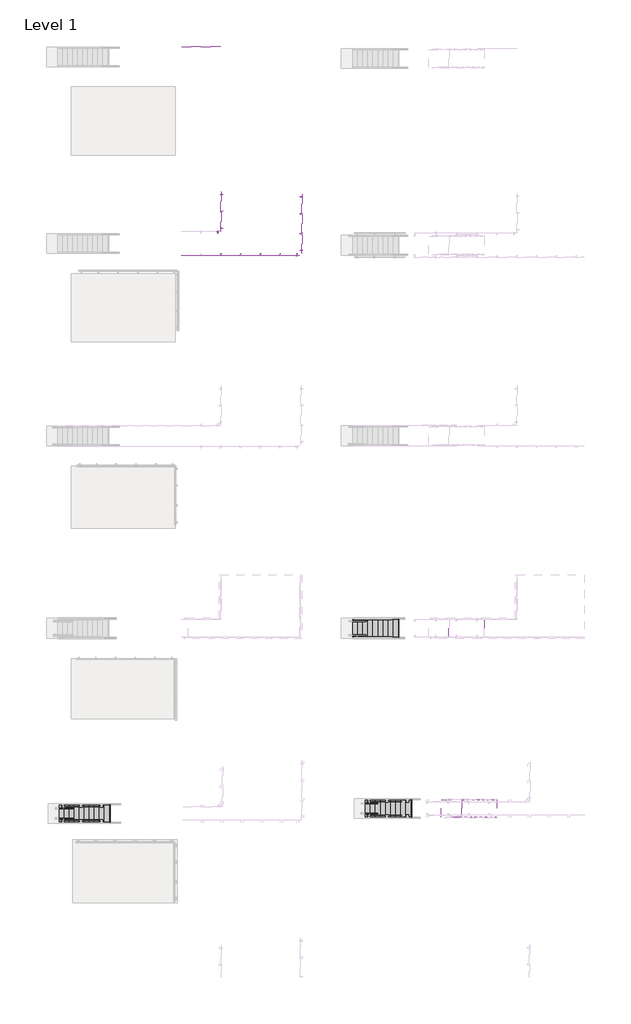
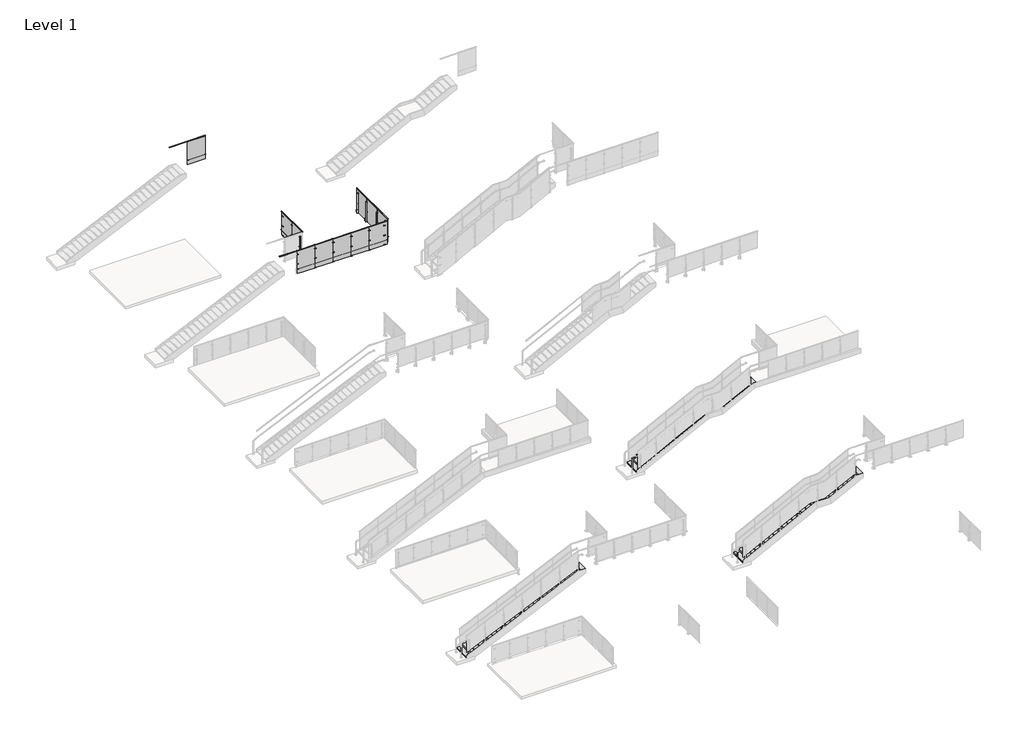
# One storey, part 21 of 37: 6 proxies, 5 stair flights, 4 railings, 1 slab.
"""IFC4 building model written with IfcOpenShell, lengths in millimetres."""

from ifc_helpers import new_model, si_unit, point, frame, frame_2d, origin, place, context, project, spatial, polyline, circle_curve, trimmed, segment, composite_curve, outline, extrude, faceted_brep, transform, mapped, element, save
from components import baluster_end_post_viva_solo_top_mount_5ac118a2, baluster_end_post_viva_solo_top_mount_22cecde8, non_monolithic_landing_24d4a4f4, stair_flight_273abd03, stair_flight_978e4ef8, stair_flight_d18736ff, stair_flight_5856ef12, stair_flight_fc7d2e35

model = new_model("IFC4")

# Units and contexts
model_context = context("Model", 3, world=origin())
ifc_project = project(units=[si_unit("LENGTHUNIT", "METRE", prefix="MILLI")], contexts=[model_context])

# Site, building, storey
site = spatial("IfcSite", under=ifc_project)
building = spatial("IfcBuilding", under=site)
storey = spatial("IfcBuildingStorey", under=building, Name="Level 1", Elevation=0.0)

# Proxies
placement = place(None, origin())
baluster_end_post_viva_solo_top_mount_shape = baluster_end_post_viva_solo_top_mount_5ac118a2(model_context)
element("IfcBuildingElementProxy", 1, Name="Baluster-End-Post-VIVA-SOLO-Top Mount : ANCHORED TO CONCRETE_FASCIA A1 MOUNT FOLD_STRAIGHT", ObjectType="Baluster-End-Post-VIVA-SOLO-Top Mount : ANCHORED TO CONCRETE_FASCIA A1 MOUNT FOLD_STRAIGHT", at=placement, inside=storey, context=model_context, shape_type="MappedRepresentation", body=[
    mapped(baluster_end_post_viva_solo_top_mount_shape, transform((-1359.864819, 32538.5744132, 3047.492), x_axis=(-1.0, 0.0, 0.0), y_axis=(0.0, -1.0, 0.0), z_axis=(0.0, 0.0, 1.0))),
])
element("IfcBuildingElementProxy", 2, Name="Baluster-End-Post-VIVA-SOLO-Top Mount : ANCHORED TO CONCRETE_FASCIA A1 MOUNT FOLD_STRAIGHT", ObjectType="Baluster-End-Post-VIVA-SOLO-Top Mount : ANCHORED TO CONCRETE_FASCIA A1 MOUNT FOLD_STRAIGHT", at=placement, inside=storey, context=model_context, shape_type="MappedRepresentation", body=[
    mapped(baluster_end_post_viva_solo_top_mount_shape, transform((-5472.6508345, 33855.1380879, 3047.492), x_axis=(0.0, 1.0, 0.0), y_axis=(-1.0, 0.0, 0.0), z_axis=(0.0, 0.0, 1.0))),
])
element("IfcBuildingElementProxy", 3, Name="Baluster-End-Post-VIVA-SOLO-Top Mount : ANCHORED TO CONCRETE_FASCIA A1 MOUNT FOLD_STRAIGHT", ObjectType="Baluster-End-Post-VIVA-SOLO-Top Mount : ANCHORED TO CONCRETE_FASCIA A1 MOUNT FOLD_STRAIGHT", at=placement, inside=storey, context=model_context, shape_type="MappedRepresentation", body=[
    mapped(baluster_end_post_viva_solo_top_mount_shape, transform((-1191.856519, 35759.2987834, 3047.492), x_axis=(0.0, -1.0, 0.0), y_axis=(1.0, 0.0, 0.0), z_axis=(0.0, 0.0, 1.0))),
])
baluster_end_post_viva_solo_top_mount_2_shape = baluster_end_post_viva_solo_top_mount_22cecde8(model_context)
element("IfcBuildingElementProxy", 4, Name="Baluster-End-Post-VIVA-SOLO-Top Mount : ANCHORED TO CONCRETE_FASCIA A1 MOUNT FOLD_STRAIGHT", ObjectType="Baluster-End-Post-VIVA-SOLO-Top Mount : ANCHORED TO CONCRETE_FASCIA A1 MOUNT FOLD_STRAIGHT", at=placement, inside=storey, context=model_context, shape_type="MappedRepresentation", body=[
    mapped(baluster_end_post_viva_solo_top_mount_2_shape, transform((-5423.864819, 33900.0689752, 3047.492), x_axis=(1.0, 0.0, 0.0), y_axis=(0.0, 1.0, 0.0), z_axis=(0.0, 0.0, 1.0))),
])
element("IfcBuildingElementProxy", 5, Name="Baluster-End-Post-VIVA-SOLO-Top Mount : ANCHORED TO CONCRETE_FASCIA A1 MOUNT FOLD_STRAIGHT", ObjectType="Baluster-End-Post-VIVA-SOLO-Top Mount : ANCHORED TO CONCRETE_FASCIA A1 MOUNT FOLD_STRAIGHT", at=placement, inside=storey, context=model_context, shape_type="MappedRepresentation", body=[
    mapped(baluster_end_post_viva_solo_top_mount_2_shape, transform((-5472.6508345, 35887.1380879, 3047.492), x_axis=(0.0, 1.0, 0.0), y_axis=(-1.0, 0.0, 0.0), z_axis=(0.0, 0.0, 1.0))),
])
element("IfcBuildingElementProxy", 6, Name="Baluster-End-Post-VIVA-SOLO-Top Mount : ANCHORED TO CONCRETE_FASCIA A1 MOUNT FOLD_STRAIGHT", ObjectType="Baluster-End-Post-VIVA-SOLO-Top Mount : ANCHORED TO CONCRETE_FASCIA A1 MOUNT FOLD_STRAIGHT", at=placement, inside=storey, context=model_context, shape_type="MappedRepresentation", body=[
    mapped(baluster_end_post_viva_solo_top_mount_2_shape, transform((-1191.856519, 32711.2987834, 3047.492), x_axis=(0.0, -1.0, 0.0), y_axis=(1.0, 0.0, 0.0), z_axis=(0.0, 0.0, 1.0))),
])

# Railings
element("IfcRailing", 7, ObjectType="VIVA-SOLO-Glass-Fascia Mount-Straight-A1", at=placement, inside=storey, context=model_context, shape_type="SolidModel", body=[
    extrude(outline(composite_curve([segment(trimmed(circle_curve(frame_2d((32538.5744132, 3047.746)), 0.254), [point((32538.3204132, 3047.746))], [point((32538.8284132, 3047.746))], False, "CARTESIAN"), True, "CONTINUOUS"), segment(trimmed(circle_curve(frame_2d((32538.5744132, 3047.746)), 0.254), [point((32538.8284132, 3047.746))], [point((32538.3204132, 3047.746))], False, "CARTESIAN"), True, "CONTINUOUS")], self_intersect=False)), frame((-6439.864819, 0.0, 0.0), z_axis=(1.0, 0.0, 0.0), x_axis=(0.0, 1.0, 0.0)), (0.0, 0.0, 1.0), 5080.0),
    extrude(outline(composite_curve([segment(trimmed(circle_curve(frame_2d((32538.5744132, 3047.746)), 0.254), [point((32538.3204132, 3047.746))], [point((32538.8284132, 3047.746))], False, "CARTESIAN"), True, "CONTINUOUS"), segment(trimmed(circle_curve(frame_2d((32538.5744132, 3047.746)), 0.254), [point((32538.8284132, 3047.746))], [point((32538.3204132, 3047.746))], False, "CARTESIAN"), True, "CONTINUOUS")], self_intersect=False)), frame((-6439.864819, 0.0, 0.0), z_axis=(1.0, 0.0, 0.0), x_axis=(0.0, 1.0, 0.0)), (0.0, 0.0, 1.0), 5080.0),
    faceted_brep([(-1359.864819, 32584.2944132, 4127.5), (-1359.864819, 32584.2944132, 4102.1), (-1359.864819, 32589.0569132, 4102.1), (-1359.864819, 32589.0569132, 4122.7375), (-1359.864819, 32601.7569132, 4122.7375), (-1359.864819, 32601.7569132, 4102.1), (-1359.864819, 32606.5194132, 4102.1), (-1359.864819, 32606.5194132, 4127.5), (-6439.864819, 32606.5194132, 4127.5), (-6439.864819, 32584.2944132, 4127.5), (-6439.864819, 32606.5194132, 4102.1), (-6439.864819, 32601.7569132, 4102.1), (-6439.864819, 32601.7569132, 4122.7375), (-6439.864819, 32589.0569132, 4122.7375), (-6439.864819, 32589.0569132, 4102.1), (-6439.864819, 32584.2944132, 4102.1), (-7437.8451365, 32584.2944132, 4127.5), (-7437.8451365, 32606.5194132, 4127.5), (-7437.8451365, 32606.5194132, 4102.1), (-7437.8451365, 32601.7569132, 4102.1), (-7437.8451365, 32601.7569132, 4122.7375), (-7437.8451365, 32589.0569132, 4122.7375), (-7437.8451365, 32589.0569132, 4102.1), (-7437.8451365, 32584.2944132, 4102.1)], [[[0, 1, 2, 3, 4, 5, 6, 7]], [[8, 9, 0, 7]], [[10, 8, 7, 6]], [[11, 10, 6, 5]], [[12, 11, 5, 4]], [[13, 12, 4, 3]], [[14, 13, 3, 2]], [[15, 14, 2, 1]], [[9, 15, 1, 0]], [[16, 17, 18, 19, 20, 21, 22, 23]], [[17, 16, 9, 8]], [[18, 17, 8, 10]], [[19, 18, 10, 11]], [[20, 19, 11, 12]], [[21, 20, 12, 13]], [[22, 21, 13, 14]], [[23, 22, 14, 15]], [[16, 23, 15, 9]]]),
    extrude(outline(polyline([(-2362.7817724, 32589.1204132), (-2362.7817724, 32601.8204132), (-1372.1817724, 32601.8204132), (-1372.1817724, 32589.1204132), (-2362.7817724, 32589.1204132)])), frame((0.0, 0.0, 2743.2), z_axis=(0.0, 0.0, 1.0), x_axis=(1.0, 0.0, 0.0)), (0.0, 0.0, 1.0), 1379.474),
    extrude(outline(polyline([(-2356.021069, 32611.3454132), (-2369.514819, 32611.3454132), (-2369.514819, 32711.3579132), (-2356.021069, 32711.3579132), (-2356.021069, 32611.3454132)])), frame((0.0, 0.0, 2832.1), z_axis=(0.0, 0.0, 1.0), x_axis=(1.0, 0.0, 0.0)), (0.0, 0.0, 1.0), 127.0),
    extrude(outline(polyline([(-2369.514819, 32611.3454132), (-2382.214819, 32611.3454132), (-2382.214819, 32674.8454132), (-2369.514819, 32674.8454132), (-2369.514819, 32611.3454132)])), frame((0.0, 0.0, 2737.1764046), z_axis=(0.0, 0.0, 1.0), x_axis=(1.0, 0.0, 0.0)), (0.0, 0.0, 1.0), 1204.9740667),
    extrude(outline(polyline([(-2420.314819, 32601.8204132), (-2420.314819, 32611.3454132), (-2331.414819, 32611.3454132), (-2331.414819, 32601.8204132), (-2420.314819, 32601.8204132)])), frame((0.0, 0.0, 2737.1449689), z_axis=(0.0, 0.0, 1.0), x_axis=(1.0, 0.0, 0.0)), (0.0, 0.0, 1.0), 31.75),
    extrude(outline(polyline([(-2420.314819, 32579.5954132), (-2420.314819, 32589.1204132), (-2331.414819, 32589.1204132), (-2331.414819, 32579.5954132), (-2420.314819, 32579.5954132)])), frame((0.0, 0.0, 2737.1449689), z_axis=(0.0, 0.0, 1.0), x_axis=(1.0, 0.0, 0.0)), (0.0, 0.0, 1.0), 31.75),
    extrude(outline(polyline([(-2420.314819, 32601.8204132), (-2420.314819, 32611.3454132), (-2331.414819, 32611.3454132), (-2331.414819, 32601.8204132), (-2420.314819, 32601.8204132)])), frame((0.0, 0.0, 3299.9910694), z_axis=(0.0, 0.0, 1.0), x_axis=(1.0, 0.0, 0.0)), (0.0, 0.0, 1.0), 31.75),
    extrude(outline(polyline([(-2420.314819, 32601.8204132), (-2420.314819, 32611.3454132), (-2331.414819, 32611.3454132), (-2331.414819, 32601.8204132), (-2420.314819, 32601.8204132)])), frame((0.0, 0.0, 3886.2992187), z_axis=(0.0, 0.0, 1.0), x_axis=(1.0, 0.0, 0.0)), (0.0, 0.0, 1.0), 31.75),
    extrude(outline(polyline([(-2420.314819, 32579.5954132), (-2420.314819, 32589.1204132), (-2331.414819, 32589.1204132), (-2331.414819, 32579.5954132), (-2420.314819, 32579.5954132)])), frame((0.0, 0.0, 3299.9910694), z_axis=(0.0, 0.0, 1.0), x_axis=(1.0, 0.0, 0.0)), (0.0, 0.0, 1.0), 31.75),
    extrude(outline(polyline([(-2420.314819, 32579.5954132), (-2420.314819, 32589.1204132), (-2331.414819, 32589.1204132), (-2331.414819, 32579.5954132), (-2420.314819, 32579.5954132)])), frame((0.0, 0.0, 3886.2992187), z_axis=(0.0, 0.0, 1.0), x_axis=(1.0, 0.0, 0.0)), (0.0, 0.0, 1.0), 31.75),
    extrude(outline(composite_curve([segment(trimmed(circle_curve(frame_2d((2753.4170197, -2375.8737801)), 6.35), [point((2753.4170197, -2369.5237801))], [point((2753.4170197, -2382.2237801))], False, "CARTESIAN"), True, "CONTINUOUS"), segment(trimmed(circle_curve(frame_2d((2753.4170197, -2375.8737801)), 6.35), [point((2753.4170197, -2382.2237801))], [point((2753.4170197, -2369.5237801))], False, "CARTESIAN"), True, "CONTINUOUS")], self_intersect=False)), frame((0.0, 32589.1204132, 0.0), z_axis=(0.0, 1.0, 0.0), x_axis=(0.0, 0.0, 1.0)), (0.0, 0.0, 1.0), 12.7),
    extrude(outline(composite_curve([segment(trimmed(circle_curve(frame_2d((3315.8660694, -2375.864819)), 6.35), [point((3315.8660694, -2369.514819))], [point((3315.8660694, -2382.214819))], False, "CARTESIAN"), True, "CONTINUOUS"), segment(trimmed(circle_curve(frame_2d((3315.8660694, -2375.864819)), 6.35), [point((3315.8660694, -2382.214819))], [point((3315.8660694, -2369.514819))], False, "CARTESIAN"), True, "CONTINUOUS")], self_intersect=False)), frame((0.0, 32589.1204132, 0.0), z_axis=(0.0, 1.0, 0.0), x_axis=(0.0, 0.0, 1.0)), (0.0, 0.0, 1.0), 12.7),
    extrude(outline(composite_curve([segment(trimmed(circle_curve(frame_2d((3902.1742187, -2375.864819)), 6.35), [point((3902.1742187, -2369.514819))], [point((3902.1742187, -2382.214819))], False, "CARTESIAN"), True, "CONTINUOUS"), segment(trimmed(circle_curve(frame_2d((3902.1742187, -2375.864819)), 6.35), [point((3902.1742187, -2382.214819))], [point((3902.1742187, -2369.514819))], False, "CARTESIAN"), True, "CONTINUOUS")], self_intersect=False)), frame((0.0, 32589.1204132, 0.0), z_axis=(0.0, 1.0, 0.0), x_axis=(0.0, 0.0, 1.0)), (0.0, 0.0, 1.0), 12.7),
    extrude(outline(polyline([(-3378.7817724, 32589.1204132), (-3378.7817724, 32601.8204132), (-2388.1817724, 32601.8204132), (-2388.1817724, 32589.1204132), (-3378.7817724, 32589.1204132)])), frame((0.0, 0.0, 2743.2), z_axis=(0.0, 0.0, 1.0), x_axis=(1.0, 0.0, 0.0)), (0.0, 0.0, 1.0), 1379.474),
    extrude(outline(polyline([(-3372.021069, 32611.3454132), (-3385.514819, 32611.3454132), (-3385.514819, 32711.3579132), (-3372.021069, 32711.3579132), (-3372.021069, 32611.3454132)])), frame((0.0, 0.0, 2832.1), z_axis=(0.0, 0.0, 1.0), x_axis=(1.0, 0.0, 0.0)), (0.0, 0.0, 1.0), 127.0),
    extrude(outline(polyline([(-3385.514819, 32611.3454132), (-3398.214819, 32611.3454132), (-3398.214819, 32674.8454132), (-3385.514819, 32674.8454132), (-3385.514819, 32611.3454132)])), frame((0.0, 0.0, 2737.1764046), z_axis=(0.0, 0.0, 1.0), x_axis=(1.0, 0.0, 0.0)), (0.0, 0.0, 1.0), 1204.9740667),
    extrude(outline(polyline([(-3436.314819, 32601.8204132), (-3436.314819, 32611.3454132), (-3347.414819, 32611.3454132), (-3347.414819, 32601.8204132), (-3436.314819, 32601.8204132)])), frame((0.0, 0.0, 2737.1449689), z_axis=(0.0, 0.0, 1.0), x_axis=(1.0, 0.0, 0.0)), (0.0, 0.0, 1.0), 31.75),
    extrude(outline(polyline([(-3436.314819, 32579.5954132), (-3436.314819, 32589.1204132), (-3347.414819, 32589.1204132), (-3347.414819, 32579.5954132), (-3436.314819, 32579.5954132)])), frame((0.0, 0.0, 2737.1449689), z_axis=(0.0, 0.0, 1.0), x_axis=(1.0, 0.0, 0.0)), (0.0, 0.0, 1.0), 31.75),
    extrude(outline(polyline([(-3436.314819, 32601.8204132), (-3436.314819, 32611.3454132), (-3347.414819, 32611.3454132), (-3347.414819, 32601.8204132), (-3436.314819, 32601.8204132)])), frame((0.0, 0.0, 3299.9910694), z_axis=(0.0, 0.0, 1.0), x_axis=(1.0, 0.0, 0.0)), (0.0, 0.0, 1.0), 31.75),
    extrude(outline(polyline([(-3436.314819, 32601.8204132), (-3436.314819, 32611.3454132), (-3347.414819, 32611.3454132), (-3347.414819, 32601.8204132), (-3436.314819, 32601.8204132)])), frame((0.0, 0.0, 3886.2992187), z_axis=(0.0, 0.0, 1.0), x_axis=(1.0, 0.0, 0.0)), (0.0, 0.0, 1.0), 31.75),
    extrude(outline(polyline([(-3436.314819, 32579.5954132), (-3436.314819, 32589.1204132), (-3347.414819, 32589.1204132), (-3347.414819, 32579.5954132), (-3436.314819, 32579.5954132)])), frame((0.0, 0.0, 3299.9910694), z_axis=(0.0, 0.0, 1.0), x_axis=(1.0, 0.0, 0.0)), (0.0, 0.0, 1.0), 31.75),
    extrude(outline(polyline([(-3436.314819, 32579.5954132), (-3436.314819, 32589.1204132), (-3347.414819, 32589.1204132), (-3347.414819, 32579.5954132), (-3436.314819, 32579.5954132)])), frame((0.0, 0.0, 3886.2992187), z_axis=(0.0, 0.0, 1.0), x_axis=(1.0, 0.0, 0.0)), (0.0, 0.0, 1.0), 31.75),
    extrude(outline(composite_curve([segment(trimmed(circle_curve(frame_2d((2753.4170197, -3391.8737801)), 6.35), [point((2753.4170197, -3385.5237801))], [point((2753.4170197, -3398.2237801))], False, "CARTESIAN"), True, "CONTINUOUS"), segment(trimmed(circle_curve(frame_2d((2753.4170197, -3391.8737801)), 6.35), [point((2753.4170197, -3398.2237801))], [point((2753.4170197, -3385.5237801))], False, "CARTESIAN"), True, "CONTINUOUS")], self_intersect=False)), frame((0.0, 32589.1204132, 0.0), z_axis=(0.0, 1.0, 0.0), x_axis=(0.0, 0.0, 1.0)), (0.0, 0.0, 1.0), 12.7),
    extrude(outline(composite_curve([segment(trimmed(circle_curve(frame_2d((3315.8660694, -3391.864819)), 6.35), [point((3315.8660694, -3385.514819))], [point((3315.8660694, -3398.214819))], False, "CARTESIAN"), True, "CONTINUOUS"), segment(trimmed(circle_curve(frame_2d((3315.8660694, -3391.864819)), 6.35), [point((3315.8660694, -3398.214819))], [point((3315.8660694, -3385.514819))], False, "CARTESIAN"), True, "CONTINUOUS")], self_intersect=False)), frame((0.0, 32589.1204132, 0.0), z_axis=(0.0, 1.0, 0.0), x_axis=(0.0, 0.0, 1.0)), (0.0, 0.0, 1.0), 12.7),
    extrude(outline(composite_curve([segment(trimmed(circle_curve(frame_2d((3902.1742187, -3391.864819)), 6.35), [point((3902.1742187, -3385.514819))], [point((3902.1742187, -3398.214819))], False, "CARTESIAN"), True, "CONTINUOUS"), segment(trimmed(circle_curve(frame_2d((3902.1742187, -3391.864819)), 6.35), [point((3902.1742187, -3398.214819))], [point((3902.1742187, -3385.514819))], False, "CARTESIAN"), True, "CONTINUOUS")], self_intersect=False)), frame((0.0, 32589.1204132, 0.0), z_axis=(0.0, 1.0, 0.0), x_axis=(0.0, 0.0, 1.0)), (0.0, 0.0, 1.0), 12.7),
    extrude(outline(polyline([(-4394.7817724, 32589.1204132), (-4394.7817724, 32601.8204132), (-3404.1817724, 32601.8204132), (-3404.1817724, 32589.1204132), (-4394.7817724, 32589.1204132)])), frame((0.0, 0.0, 2743.2), z_axis=(0.0, 0.0, 1.0), x_axis=(1.0, 0.0, 0.0)), (0.0, 0.0, 1.0), 1379.474),
    extrude(outline(polyline([(-4388.021069, 32611.3454132), (-4401.514819, 32611.3454132), (-4401.514819, 32711.3579132), (-4388.021069, 32711.3579132), (-4388.021069, 32611.3454132)])), frame((0.0, 0.0, 2832.1), z_axis=(0.0, 0.0, 1.0), x_axis=(1.0, 0.0, 0.0)), (0.0, 0.0, 1.0), 127.0),
    extrude(outline(polyline([(-4401.514819, 32611.3454132), (-4414.214819, 32611.3454132), (-4414.214819, 32674.8454132), (-4401.514819, 32674.8454132), (-4401.514819, 32611.3454132)])), frame((0.0, 0.0, 2737.1764046), z_axis=(0.0, 0.0, 1.0), x_axis=(1.0, 0.0, 0.0)), (0.0, 0.0, 1.0), 1204.9740667),
    extrude(outline(polyline([(-4452.314819, 32601.8204132), (-4452.314819, 32611.3454132), (-4363.414819, 32611.3454132), (-4363.414819, 32601.8204132), (-4452.314819, 32601.8204132)])), frame((0.0, 0.0, 2737.1449689), z_axis=(0.0, 0.0, 1.0), x_axis=(1.0, 0.0, 0.0)), (0.0, 0.0, 1.0), 31.75),
    extrude(outline(polyline([(-4452.314819, 32579.5954132), (-4452.314819, 32589.1204132), (-4363.414819, 32589.1204132), (-4363.414819, 32579.5954132), (-4452.314819, 32579.5954132)])), frame((0.0, 0.0, 2737.1449689), z_axis=(0.0, 0.0, 1.0), x_axis=(1.0, 0.0, 0.0)), (0.0, 0.0, 1.0), 31.75),
    extrude(outline(polyline([(-4452.314819, 32601.8204132), (-4452.314819, 32611.3454132), (-4363.414819, 32611.3454132), (-4363.414819, 32601.8204132), (-4452.314819, 32601.8204132)])), frame((0.0, 0.0, 3299.9910694), z_axis=(0.0, 0.0, 1.0), x_axis=(1.0, 0.0, 0.0)), (0.0, 0.0, 1.0), 31.75),
    extrude(outline(polyline([(-4452.314819, 32601.8204132), (-4452.314819, 32611.3454132), (-4363.414819, 32611.3454132), (-4363.414819, 32601.8204132), (-4452.314819, 32601.8204132)])), frame((0.0, 0.0, 3886.2992187), z_axis=(0.0, 0.0, 1.0), x_axis=(1.0, 0.0, 0.0)), (0.0, 0.0, 1.0), 31.75),
    extrude(outline(polyline([(-4452.314819, 32579.5954132), (-4452.314819, 32589.1204132), (-4363.414819, 32589.1204132), (-4363.414819, 32579.5954132), (-4452.314819, 32579.5954132)])), frame((0.0, 0.0, 3299.9910694), z_axis=(0.0, 0.0, 1.0), x_axis=(1.0, 0.0, 0.0)), (0.0, 0.0, 1.0), 31.75),
    extrude(outline(polyline([(-4452.314819, 32579.5954132), (-4452.314819, 32589.1204132), (-4363.414819, 32589.1204132), (-4363.414819, 32579.5954132), (-4452.314819, 32579.5954132)])), frame((0.0, 0.0, 3886.2992187), z_axis=(0.0, 0.0, 1.0), x_axis=(1.0, 0.0, 0.0)), (0.0, 0.0, 1.0), 31.75),
    extrude(outline(composite_curve([segment(trimmed(circle_curve(frame_2d((2753.4170197, -4407.8737801)), 6.35), [point((2753.4170197, -4401.5237801))], [point((2753.4170197, -4414.2237801))], False, "CARTESIAN"), True, "CONTINUOUS"), segment(trimmed(circle_curve(frame_2d((2753.4170197, -4407.8737801)), 6.35), [point((2753.4170197, -4414.2237801))], [point((2753.4170197, -4401.5237801))], False, "CARTESIAN"), True, "CONTINUOUS")], self_intersect=False)), frame((0.0, 32589.1204132, 0.0), z_axis=(0.0, 1.0, 0.0), x_axis=(0.0, 0.0, 1.0)), (0.0, 0.0, 1.0), 12.7),
    extrude(outline(composite_curve([segment(trimmed(circle_curve(frame_2d((3315.8660694, -4407.864819)), 6.35), [point((3315.8660694, -4401.514819))], [point((3315.8660694, -4414.214819))], False, "CARTESIAN"), True, "CONTINUOUS"), segment(trimmed(circle_curve(frame_2d((3315.8660694, -4407.864819)), 6.35), [point((3315.8660694, -4414.214819))], [point((3315.8660694, -4401.514819))], False, "CARTESIAN"), True, "CONTINUOUS")], self_intersect=False)), frame((0.0, 32589.1204132, 0.0), z_axis=(0.0, 1.0, 0.0), x_axis=(0.0, 0.0, 1.0)), (0.0, 0.0, 1.0), 12.7),
    extrude(outline(composite_curve([segment(trimmed(circle_curve(frame_2d((3902.1742187, -4407.864819)), 6.35), [point((3902.1742187, -4401.514819))], [point((3902.1742187, -4414.214819))], False, "CARTESIAN"), True, "CONTINUOUS"), segment(trimmed(circle_curve(frame_2d((3902.1742187, -4407.864819)), 6.35), [point((3902.1742187, -4414.214819))], [point((3902.1742187, -4401.514819))], False, "CARTESIAN"), True, "CONTINUOUS")], self_intersect=False)), frame((0.0, 32589.1204132, 0.0), z_axis=(0.0, 1.0, 0.0), x_axis=(0.0, 0.0, 1.0)), (0.0, 0.0, 1.0), 12.7),
    extrude(outline(polyline([(-5410.7817724, 32589.1204132), (-5410.7817724, 32601.8204132), (-4420.1817724, 32601.8204132), (-4420.1817724, 32589.1204132), (-5410.7817724, 32589.1204132)])), frame((0.0, 0.0, 2743.2), z_axis=(0.0, 0.0, 1.0), x_axis=(1.0, 0.0, 0.0)), (0.0, 0.0, 1.0), 1379.474),
    extrude(outline(polyline([(-5404.021069, 32611.3454132), (-5417.514819, 32611.3454132), (-5417.514819, 32711.3579132), (-5404.021069, 32711.3579132), (-5404.021069, 32611.3454132)])), frame((0.0, 0.0, 2832.1), z_axis=(0.0, 0.0, 1.0), x_axis=(1.0, 0.0, 0.0)), (0.0, 0.0, 1.0), 127.0),
    extrude(outline(polyline([(-5417.514819, 32611.3454132), (-5430.214819, 32611.3454132), (-5430.214819, 32674.8454132), (-5417.514819, 32674.8454132), (-5417.514819, 32611.3454132)])), frame((0.0, 0.0, 2737.1764046), z_axis=(0.0, 0.0, 1.0), x_axis=(1.0, 0.0, 0.0)), (0.0, 0.0, 1.0), 1204.9740667),
    extrude(outline(polyline([(-5468.314819, 32601.8204132), (-5468.314819, 32611.3454132), (-5379.414819, 32611.3454132), (-5379.414819, 32601.8204132), (-5468.314819, 32601.8204132)])), frame((0.0, 0.0, 2737.1449689), z_axis=(0.0, 0.0, 1.0), x_axis=(1.0, 0.0, 0.0)), (0.0, 0.0, 1.0), 31.75),
    extrude(outline(polyline([(-5468.314819, 32579.5954132), (-5468.314819, 32589.1204132), (-5379.414819, 32589.1204132), (-5379.414819, 32579.5954132), (-5468.314819, 32579.5954132)])), frame((0.0, 0.0, 2737.1449689), z_axis=(0.0, 0.0, 1.0), x_axis=(1.0, 0.0, 0.0)), (0.0, 0.0, 1.0), 31.75),
    extrude(outline(polyline([(-5468.314819, 32601.8204132), (-5468.314819, 32611.3454132), (-5379.414819, 32611.3454132), (-5379.414819, 32601.8204132), (-5468.314819, 32601.8204132)])), frame((0.0, 0.0, 3299.9910694), z_axis=(0.0, 0.0, 1.0), x_axis=(1.0, 0.0, 0.0)), (0.0, 0.0, 1.0), 31.75),
    extrude(outline(polyline([(-5468.314819, 32601.8204132), (-5468.314819, 32611.3454132), (-5379.414819, 32611.3454132), (-5379.414819, 32601.8204132), (-5468.314819, 32601.8204132)])), frame((0.0, 0.0, 3886.2992187), z_axis=(0.0, 0.0, 1.0), x_axis=(1.0, 0.0, 0.0)), (0.0, 0.0, 1.0), 31.75),
    extrude(outline(polyline([(-5468.314819, 32579.5954132), (-5468.314819, 32589.1204132), (-5379.414819, 32589.1204132), (-5379.414819, 32579.5954132), (-5468.314819, 32579.5954132)])), frame((0.0, 0.0, 3299.9910694), z_axis=(0.0, 0.0, 1.0), x_axis=(1.0, 0.0, 0.0)), (0.0, 0.0, 1.0), 31.75),
    extrude(outline(polyline([(-5468.314819, 32579.5954132), (-5468.314819, 32589.1204132), (-5379.414819, 32589.1204132), (-5379.414819, 32579.5954132), (-5468.314819, 32579.5954132)])), frame((0.0, 0.0, 3886.2992187), z_axis=(0.0, 0.0, 1.0), x_axis=(1.0, 0.0, 0.0)), (0.0, 0.0, 1.0), 31.75),
    extrude(outline(composite_curve([segment(trimmed(circle_curve(frame_2d((2753.4170197, -5423.8737801)), 6.35), [point((2753.4170197, -5417.5237801))], [point((2753.4170197, -5430.2237801))], False, "CARTESIAN"), True, "CONTINUOUS"), segment(trimmed(circle_curve(frame_2d((2753.4170197, -5423.8737801)), 6.35), [point((2753.4170197, -5430.2237801))], [point((2753.4170197, -5417.5237801))], False, "CARTESIAN"), True, "CONTINUOUS")], self_intersect=False)), frame((0.0, 32589.1204132, 0.0), z_axis=(0.0, 1.0, 0.0), x_axis=(0.0, 0.0, 1.0)), (0.0, 0.0, 1.0), 12.7),
    extrude(outline(composite_curve([segment(trimmed(circle_curve(frame_2d((3315.8660694, -5423.864819)), 6.35), [point((3315.8660694, -5417.514819))], [point((3315.8660694, -5430.214819))], False, "CARTESIAN"), True, "CONTINUOUS"), segment(trimmed(circle_curve(frame_2d((3315.8660694, -5423.864819)), 6.35), [point((3315.8660694, -5430.214819))], [point((3315.8660694, -5417.514819))], False, "CARTESIAN"), True, "CONTINUOUS")], self_intersect=False)), frame((0.0, 32589.1204132, 0.0), z_axis=(0.0, 1.0, 0.0), x_axis=(0.0, 0.0, 1.0)), (0.0, 0.0, 1.0), 12.7),
    extrude(outline(composite_curve([segment(trimmed(circle_curve(frame_2d((3902.1742187, -5423.864819)), 6.35), [point((3902.1742187, -5417.514819))], [point((3902.1742187, -5430.214819))], False, "CARTESIAN"), True, "CONTINUOUS"), segment(trimmed(circle_curve(frame_2d((3902.1742187, -5423.864819)), 6.35), [point((3902.1742187, -5430.214819))], [point((3902.1742187, -5417.514819))], False, "CARTESIAN"), True, "CONTINUOUS")], self_intersect=False)), frame((0.0, 32589.1204132, 0.0), z_axis=(0.0, 1.0, 0.0), x_axis=(0.0, 0.0, 1.0)), (0.0, 0.0, 1.0), 12.7),
    extrude(outline(polyline([(-6426.7817724, 32589.1204132), (-6426.7817724, 32601.8204132), (-5436.1817724, 32601.8204132), (-5436.1817724, 32589.1204132), (-6426.7817724, 32589.1204132)])), frame((0.0, 0.0, 2743.2), z_axis=(0.0, 0.0, 1.0), x_axis=(1.0, 0.0, 0.0)), (0.0, 0.0, 1.0), 1379.474),
])
element("IfcRailing", 8, ObjectType="VIVA-SOLO-Glass-Fascia Mount-Straight-A1", at=placement, inside=storey, context=model_context, shape_type="SweptSolid", body=[
    extrude(outline(composite_curve([segment(trimmed(circle_curve(frame_2d((3047.746, -5472.6508345)), 0.254), [point((3047.746, -5472.3968345))], [point((3047.746, -5472.9048345))], False, "CARTESIAN"), True, "CONTINUOUS"), segment(trimmed(circle_curve(frame_2d((3047.746, -5472.6508345)), 0.254), [point((3047.746, -5472.9048345))], [point((3047.746, -5472.3968345))], False, "CARTESIAN"), True, "CONTINUOUS")], self_intersect=False)), frame((0.0, 33855.1380879, 0.0), z_axis=(0.0, 1.0, 0.0), x_axis=(0.0, 0.0, 1.0)), (0.0, 0.0, 1.0), 2032.0),
    extrude(outline(composite_curve([segment(trimmed(circle_curve(frame_2d((3047.746, -5472.6508345)), 0.254), [point((3047.746, -5472.3968345))], [point((3047.746, -5472.9048345))], False, "CARTESIAN"), True, "CONTINUOUS"), segment(trimmed(circle_curve(frame_2d((3047.746, -5472.6508345)), 0.254), [point((3047.746, -5472.9048345))], [point((3047.746, -5472.3968345))], False, "CARTESIAN"), True, "CONTINUOUS")], self_intersect=False)), frame((0.0, 33855.1380879, 0.0), z_axis=(0.0, 1.0, 0.0), x_axis=(0.0, 0.0, 1.0)), (0.0, 0.0, 1.0), 2032.0),
    extrude(outline(polyline([(4127.5, -5404.7058345), (4127.5, -5426.9308345), (4102.1, -5426.9308345), (4102.1, -5422.1683345), (4122.7375, -5422.1683345), (4122.7375, -5409.4683345), (4102.1, -5409.4683345), (4102.1, -5404.7058345), (4127.5, -5404.7058345)])), frame((0.0, 33855.1380879, 0.0), z_axis=(0.0, 1.0, 0.0), x_axis=(0.0, 0.0, 1.0)), (0.0, 0.0, 1.0), 2032.0),
    extrude(outline(polyline([(-5422.1048345, 34884.2211345), (-5422.1048345, 35874.8211345), (-5409.4048345, 35874.8211345), (-5409.4048345, 34884.2211345), (-5422.1048345, 34884.2211345)])), frame((0.0, 0.0, 2743.2), z_axis=(0.0, 0.0, 1.0), x_axis=(1.0, 0.0, 0.0)), (0.0, 0.0, 1.0), 1379.474),
    extrude(outline(polyline([(-5399.8798345, 34890.9818379), (-5299.8673345, 34890.9818379), (-5299.8673345, 34877.4880879), (-5399.8798345, 34877.4880879), (-5399.8798345, 34890.9818379)])), frame((0.0, 0.0, 2832.1), z_axis=(0.0, 0.0, 1.0), x_axis=(1.0, 0.0, 0.0)), (0.0, 0.0, 1.0), 127.0),
    extrude(outline(polyline([(-5399.8798345, 34877.4880879), (-5336.3798345, 34877.4880879), (-5336.3798345, 34864.7880879), (-5399.8798345, 34864.7880879), (-5399.8798345, 34877.4880879)])), frame((0.0, 0.0, 2737.1764046), z_axis=(0.0, 0.0, 1.0), x_axis=(1.0, 0.0, 0.0)), (0.0, 0.0, 1.0), 1204.9740667),
    extrude(outline(polyline([(-5409.4048345, 34826.6880879), (-5409.4048345, 34915.5880879), (-5399.8798345, 34915.5880879), (-5399.8798345, 34826.6880879), (-5409.4048345, 34826.6880879)])), frame((0.0, 0.0, 2737.1449689), z_axis=(0.0, 0.0, 1.0), x_axis=(1.0, 0.0, 0.0)), (0.0, 0.0, 1.0), 31.75),
    extrude(outline(polyline([(-5431.6298345, 34826.6880879), (-5431.6298345, 34915.5880879), (-5422.1048345, 34915.5880879), (-5422.1048345, 34826.6880879), (-5431.6298345, 34826.6880879)])), frame((0.0, 0.0, 2737.1449689), z_axis=(0.0, 0.0, 1.0), x_axis=(1.0, 0.0, 0.0)), (0.0, 0.0, 1.0), 31.75),
    extrude(outline(polyline([(-5409.4048345, 34826.6880879), (-5409.4048345, 34915.5880879), (-5399.8798345, 34915.5880879), (-5399.8798345, 34826.6880879), (-5409.4048345, 34826.6880879)])), frame((0.0, 0.0, 3299.9910694), z_axis=(0.0, 0.0, 1.0), x_axis=(1.0, 0.0, 0.0)), (0.0, 0.0, 1.0), 31.75),
    extrude(outline(polyline([(-5409.4048345, 34826.6880879), (-5409.4048345, 34915.5880879), (-5399.8798345, 34915.5880879), (-5399.8798345, 34826.6880879), (-5409.4048345, 34826.6880879)])), frame((0.0, 0.0, 3886.2992187), z_axis=(0.0, 0.0, 1.0), x_axis=(1.0, 0.0, 0.0)), (0.0, 0.0, 1.0), 31.75),
    extrude(outline(polyline([(-5431.6298345, 34826.6880879), (-5431.6298345, 34915.5880879), (-5422.1048345, 34915.5880879), (-5422.1048345, 34826.6880879), (-5431.6298345, 34826.6880879)])), frame((0.0, 0.0, 3299.9910694), z_axis=(0.0, 0.0, 1.0), x_axis=(1.0, 0.0, 0.0)), (0.0, 0.0, 1.0), 31.75),
    extrude(outline(polyline([(-5431.6298345, 34826.6880879), (-5431.6298345, 34915.5880879), (-5422.1048345, 34915.5880879), (-5422.1048345, 34826.6880879), (-5431.6298345, 34826.6880879)])), frame((0.0, 0.0, 3886.2992187), z_axis=(0.0, 0.0, 1.0), x_axis=(1.0, 0.0, 0.0)), (0.0, 0.0, 1.0), 31.75),
    extrude(outline(composite_curve([segment(trimmed(circle_curve(frame_2d((34871.1291268, 2753.4170197)), 6.35), [point((34877.4791268, 2753.4170197))], [point((34864.7791268, 2753.4170197))], False, "CARTESIAN"), True, "CONTINUOUS"), segment(trimmed(circle_curve(frame_2d((34871.1291268, 2753.4170197)), 6.35), [point((34864.7791268, 2753.4170197))], [point((34877.4791268, 2753.4170197))], False, "CARTESIAN"), True, "CONTINUOUS")], self_intersect=False)), frame((-5422.1048345, 0.0, 0.0), z_axis=(1.0, 0.0, 0.0), x_axis=(0.0, 1.0, 0.0)), (0.0, 0.0, 1.0), 12.7),
    extrude(outline(composite_curve([segment(trimmed(circle_curve(frame_2d((34871.1380879, 3315.8660694)), 6.35), [point((34877.4880879, 3315.8660694))], [point((34864.7880879, 3315.8660694))], False, "CARTESIAN"), True, "CONTINUOUS"), segment(trimmed(circle_curve(frame_2d((34871.1380879, 3315.8660694)), 6.35), [point((34864.7880879, 3315.8660694))], [point((34877.4880879, 3315.8660694))], False, "CARTESIAN"), True, "CONTINUOUS")], self_intersect=False)), frame((-5422.1048345, 0.0, 0.0), z_axis=(1.0, 0.0, 0.0), x_axis=(0.0, 1.0, 0.0)), (0.0, 0.0, 1.0), 12.7),
    extrude(outline(composite_curve([segment(trimmed(circle_curve(frame_2d((34871.1380879, 3902.1742187)), 6.35), [point((34877.4880879, 3902.1742187))], [point((34864.7880879, 3902.1742187))], False, "CARTESIAN"), True, "CONTINUOUS"), segment(trimmed(circle_curve(frame_2d((34871.1380879, 3902.1742187)), 6.35), [point((34864.7880879, 3902.1742187))], [point((34877.4880879, 3902.1742187))], False, "CARTESIAN"), True, "CONTINUOUS")], self_intersect=False)), frame((-5422.1048345, 0.0, 0.0), z_axis=(1.0, 0.0, 0.0), x_axis=(0.0, 1.0, 0.0)), (0.0, 0.0, 1.0), 12.7),
    extrude(outline(polyline([(-5422.1048345, 33868.2211345), (-5422.1048345, 34858.8211345), (-5409.4048345, 34858.8211345), (-5409.4048345, 33868.2211345), (-5422.1048345, 33868.2211345)])), frame((0.0, 0.0, 2743.2), z_axis=(0.0, 0.0, 1.0), x_axis=(1.0, 0.0, 0.0)), (0.0, 0.0, 1.0), 1379.474),
])
element("IfcRailing", 9, ObjectType="VIVA-SOLO-Glass-Fascia Mount-Straight-A1", at=placement, inside=storey, context=model_context, shape_type="SweptSolid", body=[
    extrude(outline(composite_curve([segment(trimmed(circle_curve(frame_2d((3047.746, -1191.856519)), 0.254), [point((3047.746, -1191.602519))], [point((3047.746, -1192.110519))], False, "CARTESIAN"), True, "CONTINUOUS"), segment(trimmed(circle_curve(frame_2d((3047.746, -1191.856519)), 0.254), [point((3047.746, -1192.110519))], [point((3047.746, -1191.602519))], False, "CARTESIAN"), True, "CONTINUOUS")], self_intersect=False)), frame((0.0, 32711.2987834, 0.0), z_axis=(0.0, 1.0, 0.0), x_axis=(0.0, 0.0, 1.0)), (0.0, 0.0, 1.0), 3048.0),
    extrude(outline(composite_curve([segment(trimmed(circle_curve(frame_2d((3047.746, -1191.856519)), 0.254), [point((3047.746, -1191.602519))], [point((3047.746, -1192.110519))], False, "CARTESIAN"), True, "CONTINUOUS"), segment(trimmed(circle_curve(frame_2d((3047.746, -1191.856519)), 0.254), [point((3047.746, -1192.110519))], [point((3047.746, -1191.602519))], False, "CARTESIAN"), True, "CONTINUOUS")], self_intersect=False)), frame((0.0, 32711.2987834, 0.0), z_axis=(0.0, 1.0, 0.0), x_axis=(0.0, 0.0, 1.0)), (0.0, 0.0, 1.0), 3048.0),
    extrude(outline(polyline([(4127.5, -1237.576519), (4127.5, -1259.801519), (4102.1, -1259.801519), (4102.1, -1255.039019), (4122.7375, -1255.039019), (4122.7375, -1242.339019), (4102.1, -1242.339019), (4102.1, -1237.576519), (4127.5, -1237.576519)])), frame((0.0, 32711.2987834, 0.0), z_axis=(0.0, 1.0, 0.0), x_axis=(0.0, 0.0, 1.0)), (0.0, 0.0, 1.0), 3048.0),
    extrude(outline(polyline([(-1242.402519, 34756.38183), (-1255.102519, 34756.38183), (-1255.102519, 35746.98183), (-1242.402519, 35746.98183), (-1242.402519, 34756.38183)])), frame((0.0, 0.0, 2743.2), z_axis=(0.0, 0.0, 1.0), x_axis=(1.0, 0.0, 0.0)), (0.0, 0.0, 1.0), 1379.474),
    extrude(outline(polyline([(-1264.627519, 34763.1425334), (-1264.627519, 34749.6487834), (-1364.640019, 34749.6487834), (-1364.640019, 34763.1425334), (-1264.627519, 34763.1425334)])), frame((0.0, 0.0, 2832.1), z_axis=(0.0, 0.0, 1.0), x_axis=(1.0, 0.0, 0.0)), (0.0, 0.0, 1.0), 127.0),
    extrude(outline(polyline([(-1264.627519, 34749.6487834), (-1264.627519, 34736.9487834), (-1328.127519, 34736.9487834), (-1328.127519, 34749.6487834), (-1264.627519, 34749.6487834)])), frame((0.0, 0.0, 2737.1764046), z_axis=(0.0, 0.0, 1.0), x_axis=(1.0, 0.0, 0.0)), (0.0, 0.0, 1.0), 1204.9740667),
    extrude(outline(polyline([(-1255.102519, 34698.8487834), (-1264.627519, 34698.8487834), (-1264.627519, 34787.7487834), (-1255.102519, 34787.7487834), (-1255.102519, 34698.8487834)])), frame((0.0, 0.0, 2737.1449689), z_axis=(0.0, 0.0, 1.0), x_axis=(1.0, 0.0, 0.0)), (0.0, 0.0, 1.0), 31.75),
    extrude(outline(polyline([(-1232.877519, 34698.8487834), (-1242.402519, 34698.8487834), (-1242.402519, 34787.7487834), (-1232.877519, 34787.7487834), (-1232.877519, 34698.8487834)])), frame((0.0, 0.0, 2737.1449689), z_axis=(0.0, 0.0, 1.0), x_axis=(1.0, 0.0, 0.0)), (0.0, 0.0, 1.0), 31.75),
    extrude(outline(polyline([(-1255.102519, 34698.8487834), (-1264.627519, 34698.8487834), (-1264.627519, 34787.7487834), (-1255.102519, 34787.7487834), (-1255.102519, 34698.8487834)])), frame((0.0, 0.0, 3299.9910694), z_axis=(0.0, 0.0, 1.0), x_axis=(1.0, 0.0, 0.0)), (0.0, 0.0, 1.0), 31.75),
    extrude(outline(polyline([(-1255.102519, 34698.8487834), (-1264.627519, 34698.8487834), (-1264.627519, 34787.7487834), (-1255.102519, 34787.7487834), (-1255.102519, 34698.8487834)])), frame((0.0, 0.0, 3886.2992187), z_axis=(0.0, 0.0, 1.0), x_axis=(1.0, 0.0, 0.0)), (0.0, 0.0, 1.0), 31.75),
    extrude(outline(polyline([(-1232.877519, 34698.8487834), (-1242.402519, 34698.8487834), (-1242.402519, 34787.7487834), (-1232.877519, 34787.7487834), (-1232.877519, 34698.8487834)])), frame((0.0, 0.0, 3299.9910694), z_axis=(0.0, 0.0, 1.0), x_axis=(1.0, 0.0, 0.0)), (0.0, 0.0, 1.0), 31.75),
    extrude(outline(polyline([(-1232.877519, 34698.8487834), (-1242.402519, 34698.8487834), (-1242.402519, 34787.7487834), (-1232.877519, 34787.7487834), (-1232.877519, 34698.8487834)])), frame((0.0, 0.0, 3886.2992187), z_axis=(0.0, 0.0, 1.0), x_axis=(1.0, 0.0, 0.0)), (0.0, 0.0, 1.0), 31.75),
    extrude(outline(composite_curve([segment(trimmed(circle_curve(frame_2d((34743.2898223, 2753.4170197)), 6.35), [point((34749.6398223, 2753.4170197))], [point((34736.9398223, 2753.4170197))], False, "CARTESIAN"), True, "CONTINUOUS"), segment(trimmed(circle_curve(frame_2d((34743.2898223, 2753.4170197)), 6.35), [point((34736.9398223, 2753.4170197))], [point((34749.6398223, 2753.4170197))], False, "CARTESIAN"), True, "CONTINUOUS")], self_intersect=False)), frame((-1255.102519, 0.0, 0.0), z_axis=(1.0, 0.0, 0.0), x_axis=(0.0, 1.0, 0.0)), (0.0, 0.0, 1.0), 12.7),
    extrude(outline(composite_curve([segment(trimmed(circle_curve(frame_2d((34743.2987834, 3315.8660694)), 6.35), [point((34749.6487834, 3315.8660694))], [point((34736.9487834, 3315.8660694))], False, "CARTESIAN"), True, "CONTINUOUS"), segment(trimmed(circle_curve(frame_2d((34743.2987834, 3315.8660694)), 6.35), [point((34736.9487834, 3315.8660694))], [point((34749.6487834, 3315.8660694))], False, "CARTESIAN"), True, "CONTINUOUS")], self_intersect=False)), frame((-1255.102519, 0.0, 0.0), z_axis=(1.0, 0.0, 0.0), x_axis=(0.0, 1.0, 0.0)), (0.0, 0.0, 1.0), 12.7),
    extrude(outline(composite_curve([segment(trimmed(circle_curve(frame_2d((34743.2987834, 3902.1742187)), 6.35), [point((34749.6487834, 3902.1742187))], [point((34736.9487834, 3902.1742187))], False, "CARTESIAN"), True, "CONTINUOUS"), segment(trimmed(circle_curve(frame_2d((34743.2987834, 3902.1742187)), 6.35), [point((34736.9487834, 3902.1742187))], [point((34749.6487834, 3902.1742187))], False, "CARTESIAN"), True, "CONTINUOUS")], self_intersect=False)), frame((-1255.102519, 0.0, 0.0), z_axis=(1.0, 0.0, 0.0), x_axis=(0.0, 1.0, 0.0)), (0.0, 0.0, 1.0), 12.7),
    extrude(outline(polyline([(-1242.402519, 33740.38183), (-1255.102519, 33740.38183), (-1255.102519, 34730.98183), (-1242.402519, 34730.98183), (-1242.402519, 33740.38183)])), frame((0.0, 0.0, 2743.2), z_axis=(0.0, 0.0, 1.0), x_axis=(1.0, 0.0, 0.0)), (0.0, 0.0, 1.0), 1379.474),
    extrude(outline(polyline([(-1264.627519, 33747.1425334), (-1264.627519, 33733.6487834), (-1364.640019, 33733.6487834), (-1364.640019, 33747.1425334), (-1264.627519, 33747.1425334)])), frame((0.0, 0.0, 2832.1), z_axis=(0.0, 0.0, 1.0), x_axis=(1.0, 0.0, 0.0)), (0.0, 0.0, 1.0), 127.0),
    extrude(outline(polyline([(-1264.627519, 33733.6487834), (-1264.627519, 33720.9487834), (-1328.127519, 33720.9487834), (-1328.127519, 33733.6487834), (-1264.627519, 33733.6487834)])), frame((0.0, 0.0, 2737.1764046), z_axis=(0.0, 0.0, 1.0), x_axis=(1.0, 0.0, 0.0)), (0.0, 0.0, 1.0), 1204.9740667),
    extrude(outline(polyline([(-1255.102519, 33682.8487834), (-1264.627519, 33682.8487834), (-1264.627519, 33771.7487834), (-1255.102519, 33771.7487834), (-1255.102519, 33682.8487834)])), frame((0.0, 0.0, 2737.1449689), z_axis=(0.0, 0.0, 1.0), x_axis=(1.0, 0.0, 0.0)), (0.0, 0.0, 1.0), 31.75),
    extrude(outline(polyline([(-1232.877519, 33682.8487834), (-1242.402519, 33682.8487834), (-1242.402519, 33771.7487834), (-1232.877519, 33771.7487834), (-1232.877519, 33682.8487834)])), frame((0.0, 0.0, 2737.1449689), z_axis=(0.0, 0.0, 1.0), x_axis=(1.0, 0.0, 0.0)), (0.0, 0.0, 1.0), 31.75),
    extrude(outline(polyline([(-1255.102519, 33682.8487834), (-1264.627519, 33682.8487834), (-1264.627519, 33771.7487834), (-1255.102519, 33771.7487834), (-1255.102519, 33682.8487834)])), frame((0.0, 0.0, 3299.9910694), z_axis=(0.0, 0.0, 1.0), x_axis=(1.0, 0.0, 0.0)), (0.0, 0.0, 1.0), 31.75),
    extrude(outline(polyline([(-1255.102519, 33682.8487834), (-1264.627519, 33682.8487834), (-1264.627519, 33771.7487834), (-1255.102519, 33771.7487834), (-1255.102519, 33682.8487834)])), frame((0.0, 0.0, 3886.2992187), z_axis=(0.0, 0.0, 1.0), x_axis=(1.0, 0.0, 0.0)), (0.0, 0.0, 1.0), 31.75),
    extrude(outline(polyline([(-1232.877519, 33682.8487834), (-1242.402519, 33682.8487834), (-1242.402519, 33771.7487834), (-1232.877519, 33771.7487834), (-1232.877519, 33682.8487834)])), frame((0.0, 0.0, 3299.9910694), z_axis=(0.0, 0.0, 1.0), x_axis=(1.0, 0.0, 0.0)), (0.0, 0.0, 1.0), 31.75),
    extrude(outline(polyline([(-1232.877519, 33682.8487834), (-1242.402519, 33682.8487834), (-1242.402519, 33771.7487834), (-1232.877519, 33771.7487834), (-1232.877519, 33682.8487834)])), frame((0.0, 0.0, 3886.2992187), z_axis=(0.0, 0.0, 1.0), x_axis=(1.0, 0.0, 0.0)), (0.0, 0.0, 1.0), 31.75),
    extrude(outline(composite_curve([segment(trimmed(circle_curve(frame_2d((33727.2898223, 2753.4170197)), 6.35), [point((33733.6398223, 2753.4170197))], [point((33720.9398223, 2753.4170197))], False, "CARTESIAN"), True, "CONTINUOUS"), segment(trimmed(circle_curve(frame_2d((33727.2898223, 2753.4170197)), 6.35), [point((33720.9398223, 2753.4170197))], [point((33733.6398223, 2753.4170197))], False, "CARTESIAN"), True, "CONTINUOUS")], self_intersect=False)), frame((-1255.102519, 0.0, 0.0), z_axis=(1.0, 0.0, 0.0), x_axis=(0.0, 1.0, 0.0)), (0.0, 0.0, 1.0), 12.7),
    extrude(outline(composite_curve([segment(trimmed(circle_curve(frame_2d((33727.2987834, 3315.8660694)), 6.35), [point((33733.6487834, 3315.8660694))], [point((33720.9487834, 3315.8660694))], False, "CARTESIAN"), True, "CONTINUOUS"), segment(trimmed(circle_curve(frame_2d((33727.2987834, 3315.8660694)), 6.35), [point((33720.9487834, 3315.8660694))], [point((33733.6487834, 3315.8660694))], False, "CARTESIAN"), True, "CONTINUOUS")], self_intersect=False)), frame((-1255.102519, 0.0, 0.0), z_axis=(1.0, 0.0, 0.0), x_axis=(0.0, 1.0, 0.0)), (0.0, 0.0, 1.0), 12.7),
    extrude(outline(composite_curve([segment(trimmed(circle_curve(frame_2d((33727.2987834, 3902.1742187)), 6.35), [point((33733.6487834, 3902.1742187))], [point((33720.9487834, 3902.1742187))], False, "CARTESIAN"), True, "CONTINUOUS"), segment(trimmed(circle_curve(frame_2d((33727.2987834, 3902.1742187)), 6.35), [point((33720.9487834, 3902.1742187))], [point((33733.6487834, 3902.1742187))], False, "CARTESIAN"), True, "CONTINUOUS")], self_intersect=False)), frame((-1255.102519, 0.0, 0.0), z_axis=(1.0, 0.0, 0.0), x_axis=(0.0, 1.0, 0.0)), (0.0, 0.0, 1.0), 12.7),
    extrude(outline(polyline([(-1242.402519, 32724.38183), (-1255.102519, 32724.38183), (-1255.102519, 33714.98183), (-1242.402519, 33714.98183), (-1242.402519, 32724.38183)])), frame((0.0, 0.0, 2743.2), z_axis=(0.0, 0.0, 1.0), x_axis=(1.0, 0.0, 0.0)), (0.0, 0.0, 1.0), 1379.474),
])
element("IfcRailing", 10, ObjectType="VIVA-SOLO-Glass-Fascia Mount-Straight-A2", at=placement, inside=storey, context=model_context, shape_type="SolidModel", body=[
    extrude(outline(composite_curve([segment(trimmed(circle_curve(frame_2d((43292.2396752, 3047.746)), 0.254), [point((43291.9856752, 3047.746))], [point((43292.4936752, 3047.746))], False, "CARTESIAN"), True, "CONTINUOUS"), segment(trimmed(circle_curve(frame_2d((43292.2396752, 3047.746)), 0.254), [point((43292.4936752, 3047.746))], [point((43291.9856752, 3047.746))], False, "CARTESIAN"), True, "CONTINUOUS")], self_intersect=False)), frame((-6439.864819, 0.0, 0.0), z_axis=(1.0, 0.0, 0.0), x_axis=(0.0, 1.0, 0.0)), (0.0, 0.0, 1.0), 1016.0),
    extrude(outline(composite_curve([segment(trimmed(circle_curve(frame_2d((43292.2396752, 3047.746)), 0.254), [point((43291.9856752, 3047.746))], [point((43292.4936752, 3047.746))], False, "CARTESIAN"), True, "CONTINUOUS"), segment(trimmed(circle_curve(frame_2d((43292.2396752, 3047.746)), 0.254), [point((43292.4936752, 3047.746))], [point((43291.9856752, 3047.746))], False, "CARTESIAN"), True, "CONTINUOUS")], self_intersect=False)), frame((-6439.864819, 0.0, 0.0), z_axis=(1.0, 0.0, 0.0), x_axis=(0.0, 1.0, 0.0)), (0.0, 0.0, 1.0), 1016.0),
    faceted_brep([(-5423.864819, 43331.6096752, 4127.5), (-5423.864819, 43331.6096752, 4102.1), (-5423.864819, 43336.3721752, 4102.1), (-5423.864819, 43336.3721752, 4122.7375), (-5423.864819, 43349.0721752, 4122.7375), (-5423.864819, 43349.0721752, 4102.1), (-5423.864819, 43353.8346752, 4102.1), (-5423.864819, 43353.8346752, 4127.5), (-6439.864819, 43353.8346752, 4127.5), (-6439.864819, 43331.6096752, 4127.5), (-6439.864819, 43353.8346752, 4102.1), (-6439.864819, 43349.0721752, 4102.1), (-6439.864819, 43349.0721752, 4122.7375), (-6439.864819, 43336.3721752, 4122.7375), (-6439.864819, 43336.3721752, 4102.1), (-6439.864819, 43331.6096752, 4102.1), (-7430.9985127, 43331.6096752, 4127.5), (-7430.9985127, 43353.8346752, 4127.5), (-7430.9985127, 43353.8346752, 4102.1), (-7430.9985127, 43349.0721752, 4102.1), (-7430.9985127, 43349.0721752, 4122.7375), (-7430.9985127, 43336.3721752, 4122.7375), (-7430.9985127, 43336.3721752, 4102.1), (-7430.9985127, 43331.6096752, 4102.1)], [[[0, 1, 2, 3, 4, 5, 6, 7]], [[8, 9, 0, 7]], [[10, 8, 7, 6]], [[11, 10, 6, 5]], [[12, 11, 5, 4]], [[13, 12, 4, 3]], [[14, 13, 3, 2]], [[15, 14, 2, 1]], [[9, 15, 1, 0]], [[16, 17, 18, 19, 20, 21, 22, 23]], [[17, 16, 9, 8]], [[18, 17, 8, 10]], [[19, 18, 10, 11]], [[20, 19, 11, 12]], [[21, 20, 12, 13]], [[22, 21, 13, 14]], [[23, 22, 14, 15]], [[16, 23, 15, 9]]]),
    extrude(outline(polyline([(-6426.7817724, 43336.4356752), (-6426.7817724, 43349.1356752), (-5436.1817724, 43349.1356752), (-5436.1817724, 43336.4356752), (-6426.7817724, 43336.4356752)])), frame((0.0, 0.0, 2743.2), z_axis=(0.0, 0.0, 1.0), x_axis=(1.0, 0.0, 0.0)), (0.0, 0.0, 1.0), 1397.0),
])

# Slab
non_monolithic_landing_shape = non_monolithic_landing_24d4a4f4(model_context)
element("IfcSlab", 11, ObjectType="Non-Monolithic Landing", at=placement, inside=storey, context=model_context, shape_type="MappedRepresentation", body=[
    mapped(non_monolithic_landing_shape, transform((0.0, 0.0, 0.0), x_axis=(1.0, 0.0, 0.0), y_axis=(0.0, 1.0, 0.0), z_axis=(0.0, 0.0, 1.0))),
])

# Stair flights
stair_flight_shape = stair_flight_273abd03(model_context)
element("IfcStairFlight", 12, ObjectType="Concrete Steps with 2\" Tread 1\" Nosing 1/4\" Riser", at=placement, inside=storey, context=model_context, shape_type="MappedRepresentation", body=[
    mapped(stair_flight_shape, transform((0.0, 0.0, 0.0), x_axis=(1.0, 0.0, 0.0), y_axis=(0.0, 1.0, 0.0), z_axis=(0.0, 0.0, 1.0))),
])
stair_flight_2_shape = stair_flight_978e4ef8(model_context)
element("IfcStairFlight", 13, ObjectType="Concrete Steps with 2\" Tread 1\" Nosing 1/4\" Riser", at=placement, inside=storey, context=model_context, shape_type="MappedRepresentation", body=[
    mapped(stair_flight_2_shape, transform((0.0, 0.0, 0.0), x_axis=(1.0, 0.0, 0.0), y_axis=(0.0, 1.0, 0.0), z_axis=(0.0, 0.0, 1.0))),
])
stair_flight_3_shape = stair_flight_d18736ff(model_context)
element("IfcStairFlight", 14, ObjectType="Concrete Steps with 2\" Tread 1\" Nosing 1/4\" Riser", at=placement, inside=storey, context=model_context, shape_type="MappedRepresentation", body=[
    mapped(stair_flight_3_shape, transform((0.0, 0.0, 0.0), x_axis=(1.0, 0.0, 0.0), y_axis=(0.0, 1.0, 0.0), z_axis=(0.0, 0.0, 1.0))),
])
stair_flight_4_shape = stair_flight_5856ef12(model_context)
element("IfcStairFlight", 15, ObjectType="Concrete Steps with 2\" Tread 1\" Nosing 1/4\" Riser", at=placement, inside=storey, context=model_context, shape_type="MappedRepresentation", body=[
    mapped(stair_flight_4_shape, transform((0.0, 0.0, 0.0), x_axis=(1.0, 0.0, 0.0), y_axis=(0.0, 1.0, 0.0), z_axis=(0.0, 0.0, 1.0))),
])
stair_flight_5_shape = stair_flight_fc7d2e35(model_context)
element("IfcStairFlight", 16, ObjectType="Concrete Steps with 2\" Tread 1\" Nosing 1/4\" Riser", at=placement, inside=storey, context=model_context, shape_type="MappedRepresentation", body=[
    mapped(stair_flight_5_shape, transform((0.0, 0.0, 0.0), x_axis=(1.0, 0.0, 0.0), y_axis=(0.0, 1.0, 0.0), z_axis=(0.0, 0.0, 1.0))),
])

save(model, "model.ifc")
